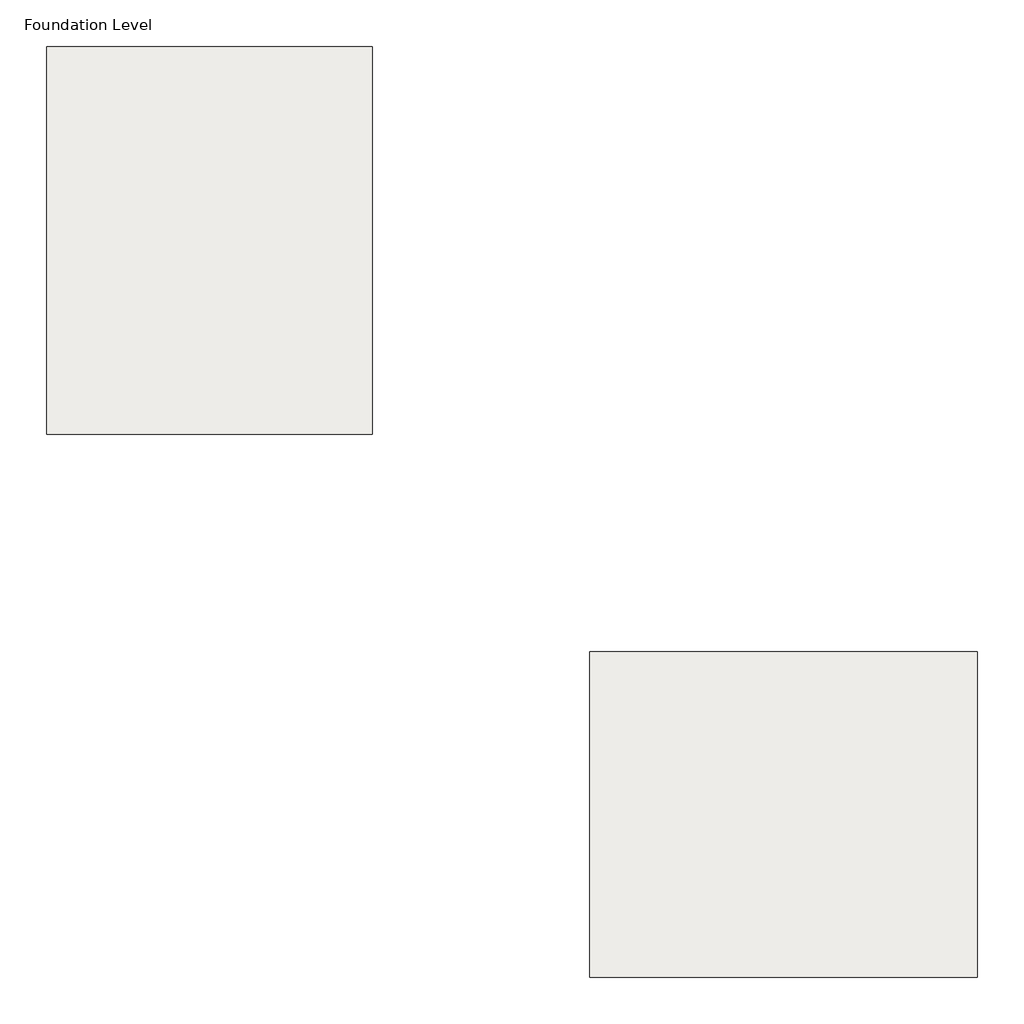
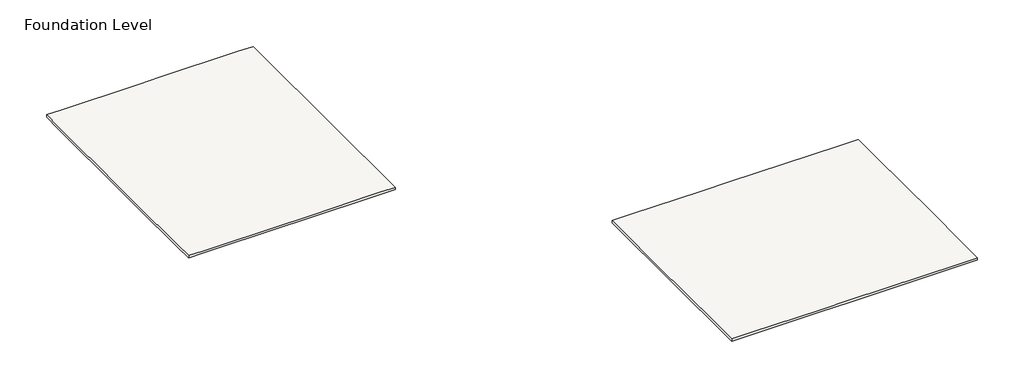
# One storey: 2 slabs.
"""IFC4 building model written with IfcOpenShell, lengths in millimetres."""

from ifc_helpers import new_model, si_unit, origin, place, context, project, spatial, faceted_brep, element, save

model = new_model("IFC4")

# Units and contexts
model_context = context("Model", 3, world=origin())
ifc_project = project(units=[si_unit("LENGTHUNIT", "METRE", prefix="MILLI")], contexts=[model_context])

# Site, building, storey
site = spatial("IfcSite", under=ifc_project)
building = spatial("IfcBuilding", under=site)
storey = spatial("IfcBuildingStorey", under=building, Name="Foundation Level", Elevation=-1828.8)

# Slabs
placement = place(None, origin())
element("IfcSlab", 1, ObjectType="6\" Foundation Slab", at=placement, inside=storey, context=model_context, shape_type="Brep", body=[
    faceted_brep([(-26107.6148109, 13532.249478, -1981.2), (-26107.6148109, 12313.049478, -1981.2), (-26107.6148109, 5607.449478, -1981.2), (-26107.6148109, 3778.649478, -1981.2), (-26107.6148109, -488.550522, -1981.2), (-26107.6148109, -1707.750522, -1981.2), (-27022.0148109, -1707.750522, -1981.2), (-31898.8148109, -1707.750522, -1981.2), (-33118.0148109, -1707.750522, -1981.2), (-37994.8148109, -1707.750522, -1981.2), (-38909.2148109, -1707.750522, -1981.2), (-38909.2148109, -488.550522, -1981.2), (-38909.2148109, 3778.649478, -1981.2), (-38909.2148109, 5607.449478, -1981.2), (-38909.2148109, 12313.049478, -1981.2), (-38909.2148109, 13532.249478, -1981.2), (-37994.8148109, 13532.249478, -1981.2), (-33118.0148109, 13532.249478, -1981.2), (-31898.8148109, 13532.249478, -1981.2), (-27022.0148109, 13532.249478, -1981.2), (-26107.6148109, 13532.249478, -1828.8), (-27022.0148109, 13532.249478, -1828.8), (-31898.8148109, 13532.249478, -1828.8), (-33118.0148109, 13532.249478, -1828.8), (-37994.8148109, 13532.249478, -1828.8), (-38909.2148109, 13532.249478, -1828.8), (-38909.2148109, 12313.049478, -1828.8), (-38909.2148109, 5607.449478, -1828.8), (-38909.2148109, 3778.649478, -1828.8), (-38909.2148109, -488.550522, -1828.8), (-38909.2148109, -1707.750522, -1828.8), (-37994.8148109, -1707.750522, -1828.8), (-33118.0148109, -1707.750522, -1828.8), (-31898.8148109, -1707.750522, -1828.8), (-27022.0148109, -1707.750522, -1828.8), (-26107.6148109, -1707.750522, -1828.8), (-26107.6148109, -488.550522, -1828.8), (-26107.6148109, 3778.649478, -1828.8), (-26107.6148109, 5607.449478, -1828.8), (-26107.6148109, 12313.049478, -1828.8)], [[[0, 1, 2, 3, 4, 5, 6, 7, 8, 9, 10, 11, 12, 13, 14, 15, 16, 17, 18, 19]], [[20, 21, 22, 23, 24, 25, 26, 27, 28, 29, 30, 31, 32, 33, 34, 35, 36, 37, 38, 39]], [[5, 4, 3, 2, 1, 0, 20, 39, 38, 37, 36, 35]], [[10, 9, 8, 7, 6, 5, 35, 34, 33, 32, 31, 30]], [[15, 14, 13, 12, 11, 10, 30, 29, 28, 27, 26, 25]], [[0, 19, 18, 17, 16, 15, 25, 24, 23, 22, 21, 20]]]),
])
element("IfcSlab", 2, ObjectType="6\" Foundation Slab", at=placement, inside=storey, context=model_context, shape_type="Brep", body=[
    faceted_brep([(-2333.2148109, -10242.150522, -1981.2), (-2333.2148109, -11156.550522, -1981.2), (-2333.2148109, -16033.350522, -1981.2), (-2333.2148109, -17252.550522, -1981.2), (-2333.2148109, -22129.350522, -1981.2), (-2333.2148109, -23043.750522, -1981.2), (-3552.4148109, -23043.750522, -1981.2), (-10258.0148109, -23043.750522, -1981.2), (-12086.8148109, -23043.750522, -1981.2), (-16354.0148109, -23043.750522, -1981.2), (-17573.2148109, -23043.750522, -1981.2), (-17573.2148109, -22129.350522, -1981.2), (-17573.2148109, -17252.550522, -1981.2), (-17573.2148109, -16033.350522, -1981.2), (-17573.2148109, -11156.550522, -1981.2), (-17573.2148109, -10242.150522, -1981.2), (-16354.0148109, -10242.150522, -1981.2), (-12086.8148109, -10242.150522, -1981.2), (-10258.0148109, -10242.150522, -1981.2), (-3552.4148109, -10242.150522, -1981.2), (-2333.2148109, -10242.150522, -1828.8), (-3552.4148109, -10242.150522, -1828.8), (-10258.0148109, -10242.150522, -1828.8), (-12086.8148109, -10242.150522, -1828.8), (-16354.0148109, -10242.150522, -1828.8), (-17573.2148109, -10242.150522, -1828.8), (-17573.2148109, -11156.550522, -1828.8), (-17573.2148109, -16033.350522, -1828.8), (-17573.2148109, -17252.550522, -1828.8), (-17573.2148109, -22129.350522, -1828.8), (-17573.2148109, -23043.750522, -1828.8), (-16354.0148109, -23043.750522, -1828.8), (-12086.8148109, -23043.750522, -1828.8), (-10258.0148109, -23043.750522, -1828.8), (-3552.4148109, -23043.750522, -1828.8), (-2333.2148109, -23043.750522, -1828.8), (-2333.2148109, -22129.350522, -1828.8), (-2333.2148109, -17252.550522, -1828.8), (-2333.2148109, -16033.350522, -1828.8), (-2333.2148109, -11156.550522, -1828.8)], [[[0, 1, 2, 3, 4, 5, 6, 7, 8, 9, 10, 11, 12, 13, 14, 15, 16, 17, 18, 19]], [[20, 21, 22, 23, 24, 25, 26, 27, 28, 29, 30, 31, 32, 33, 34, 35, 36, 37, 38, 39]], [[0, 19, 18, 17, 16, 15, 25, 24, 23, 22, 21, 20]], [[15, 14, 13, 12, 11, 10, 30, 29, 28, 27, 26, 25]], [[10, 9, 8, 7, 6, 5, 35, 34, 33, 32, 31, 30]], [[5, 4, 3, 2, 1, 0, 20, 39, 38, 37, 36, 35]]]),
])

save(model, "model.ifc")
